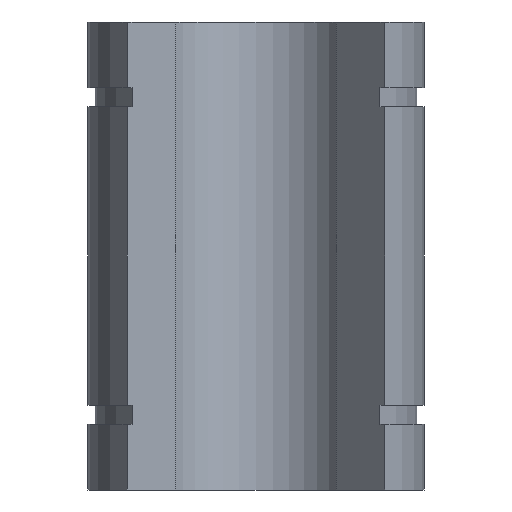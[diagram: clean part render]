
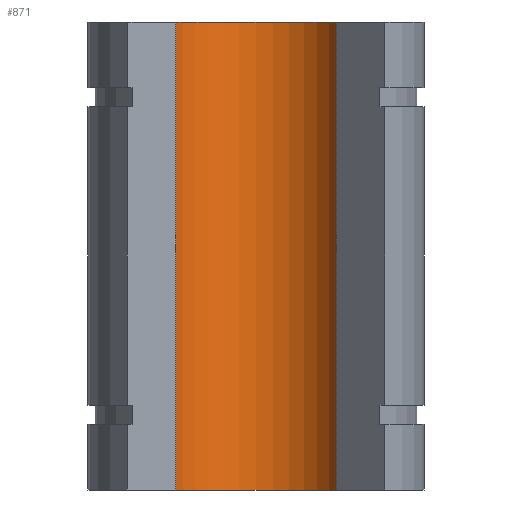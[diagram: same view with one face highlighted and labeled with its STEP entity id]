
A CAD part, front view. The second image highlights one B-rep face of the part: STEP entity #871.
In plain terms, the highlighted cylindrical face has radius 6.5 mm (diameter 13 mm), a partial arc.
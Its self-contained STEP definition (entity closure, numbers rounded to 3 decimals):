
#49=CARTESIAN_POINT('',(6.5,0.,0.0));
#50=VERTEX_POINT('',#49);
#51=CARTESIAN_POINT('',(6.5,0.,32.0));
#52=VERTEX_POINT('',#51);
#53=CARTESIAN_POINT('',(6.5,0.,0.0));
#54=DIRECTION('',(0.0,0.0,1.0));
#55=VECTOR('',#54,32.0);
#56=LINE('',#53,#55);
#57=EDGE_CURVE('',#50,#52,#56,.T.);
#91=CARTESIAN_POINT('',(-6.5,0.,32.0));
#92=VERTEX_POINT('',#91);
#93=CARTESIAN_POINT('',(-6.5,0.,0.0));
#94=VERTEX_POINT('',#93);
#95=CARTESIAN_POINT('',(-6.5,0.,32.0));
#96=DIRECTION('',(0.0,0.0,-1.0));
#97=VECTOR('',#96,32.0);
#98=LINE('',#95,#97);
#99=EDGE_CURVE('',#92,#94,#98,.T.);
#814=CARTESIAN_POINT('',(0.0,0.0,32.0));
#815=DIRECTION('',(0.0,0.0,-1.0));
#816=DIRECTION('',(-1.0,0.0,0.0));
#817=AXIS2_PLACEMENT_3D('',#814,#815,#816);
#818=CIRCLE('',#817,6.5);
#819=EDGE_CURVE('',#92,#52,#818,.T.);
#832=CARTESIAN_POINT('',(0.0,0.0,0.0));
#833=DIRECTION('',(0.0,0.0,1.0));
#834=DIRECTION('',(-1.0,0.0,0.0));
#835=AXIS2_PLACEMENT_3D('',#832,#833,#834);
#836=CIRCLE('',#835,6.5);
#837=EDGE_CURVE('',#50,#94,#836,.T.);
#860=CARTESIAN_POINT('',(0.0,0.0,0.0));
#861=DIRECTION('',(0.0,0.0,1.0));
#862=DIRECTION('',(-1.0,0.0,0.0));
#863=AXIS2_PLACEMENT_3D('',#860,#861,#862);
#864=CYLINDRICAL_SURFACE('',#863,6.5);
#865=ORIENTED_EDGE('',*,*,#99,.T.);
#866=ORIENTED_EDGE('',*,*,#837,.F.);
#867=ORIENTED_EDGE('',*,*,#57,.T.);
#868=ORIENTED_EDGE('',*,*,#819,.F.);
#869=EDGE_LOOP('',(#865,#866,#867,#868));
#870=FACE_OUTER_BOUND('',#869,.T.);
#871=ADVANCED_FACE('',(#870),#864,.F.);
